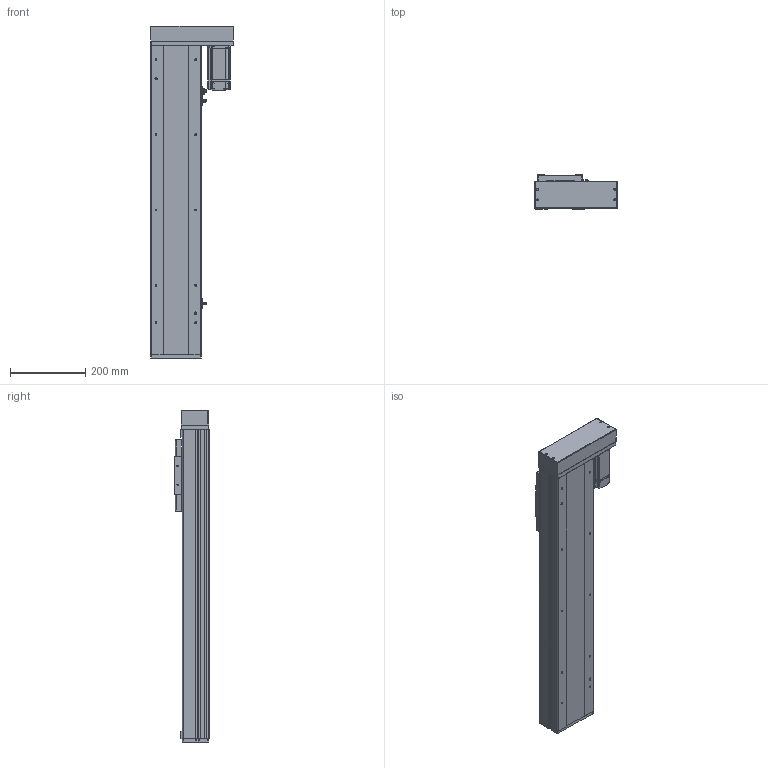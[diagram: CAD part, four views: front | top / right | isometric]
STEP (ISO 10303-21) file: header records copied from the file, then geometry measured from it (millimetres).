
FILE_DESCRIPTION (( 'STEP AP214' ), '1' );
FILE_NAME ('TPF14-BL-550-P40.STEP', '2023-03-27T02:39:09', ( '' ), ( '' ), 'SwSTEP 2.0', 'SolidWorks 2020', '' );
FILE_SCHEMA (( 'AUTOMOTIVE_DESIGN' ));
Length unit declared in the file: millimetre
Products named in the file (8): TPF14-BL-550-P40; 葩璃 詩湍75^TPF14-BL-P40; 葩璃 TPF14-BL-002 耜裔ZTMZ-135-04^TPF14-BL-P40; 葩璃 TPF14 賑雄殤^TPF14-BL-P40; 葩璃 pm-t65-672^TPF14-BL-P40; 葩璃 侂狟400W^TPF14-BL-P40; 葩璃 TPF14-BL-001 菁釱MZ-135-01^TPF14-BL-P40; 葩璃 TPF14-BL R-009 萇儂啣^TPF14-BL-P40_400W
Assembly tree (10 placements, depth 2):
  TPF14-BL-550-P40
    葩璃 TPF14-BL-001 菁釱MZ-135-01^TPF14-BL-P40
    葩璃 TPF14-BL-002 耜裔ZTMZ-135-04^TPF14-BL-P40  x2
    葩璃 詩湍75^TPF14-BL-P40
    葩璃 TPF14 賑雄殤^TPF14-BL-P40
    葩璃 pm-t65-672^TPF14-BL-P40  x3
    葩璃 侂狟400W^TPF14-BL-P40
    葩璃 TPF14-BL R-009 萇儂啣^TPF14-BL-P40_400W
Bounding box: 220.5 x 91 x 884 mm (x, y, z)
Volume: 5887021.8 mm3; surface area: 979100.8 mm2
Topology: 17 solids, 17 shells, 1219 faces, 3182 edges, 2038 vertices
Faces by surface type: plane 763, cylinder 342, cone 80, bspline 34
Entity records: 31518 total; most frequent: CARTESIAN_POINT 6340, DIRECTION 4989, ORIENTED_EDGE 4912, EDGE_CURVE 2456, LINE 1687, VECTOR 1687, AXIS2_PLACEMENT_3D 1651, VERTEX_POINT 1586
